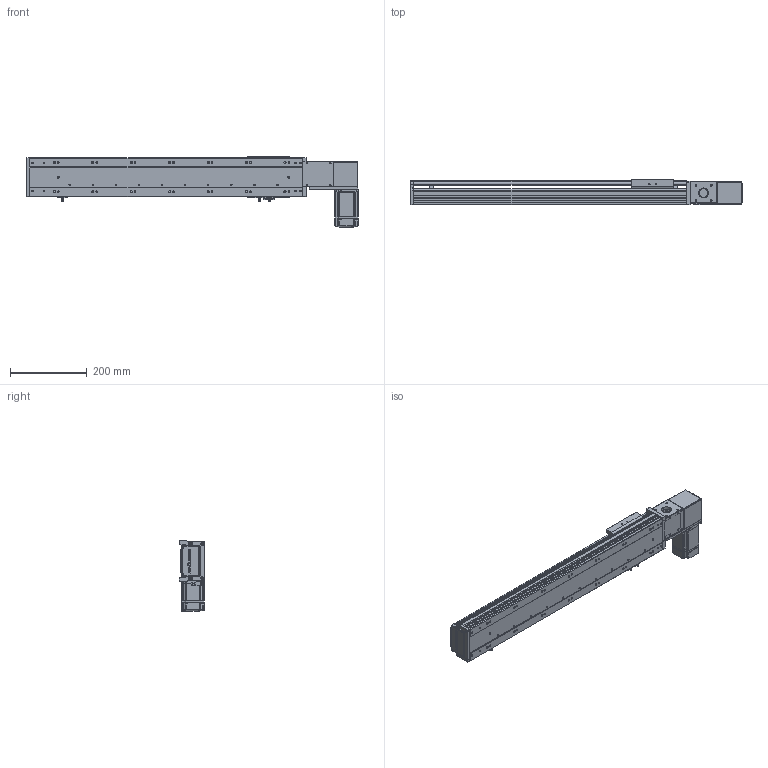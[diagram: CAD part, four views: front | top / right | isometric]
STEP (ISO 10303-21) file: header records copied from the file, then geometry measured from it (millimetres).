
FILE_DESCRIPTION (( 'STEP AP203' ), '1' );
FILE_NAME ('RY100-T-300-LK.SLDASM_500.step', '2024-04-25T05:36:50', ( '盈信电脑' ), ( '东莞市道滘镇水果街19号' ), 'SwSTEP 2.0', 'SolidWorks 2016', '' );
FILE_SCHEMA (( 'CONFIG_CONTROL_DESIGN' ));
Length unit declared in the file: millimetre
Products named in the file (13): RY100-T翋肮祭謫裔啣2; RY100-T左右折电机安装板; 滅袉蝶18-10; 1; RY100-T肮祭謫翋盓傅釱; RY100-T-300-RK倰第奻裔_500; RY80-T肮祭謫俋欶; RY100綴裔啣; RY100俋离覜茼え; RY100-T肮祭謫臏賑輸; RY100-T-300-RK倰第菁釱_500; RY100-T-300-LK.SLDASM_500; 覜茼ん672
Assembly tree (16 placements, depth 2):
  RY100-T-300-LK.SLDASM_500
    RY100-T-300-RK倰第菁釱_500
    RY100-T-300-RK倰第奻裔_500
    RY100-T肮祭謫臏賑輸
    RY100綴裔啣
    覜茼ん672  x3
    RY100俋离覜茼え
    RY100-T肮祭謫翋盓傅釱
    滅袉蝶18-10  x2
    RY100-T翋肮祭謫裔啣2  x2
    RY80-T肮祭謫俋欶
    RY100-T左右折电机安装板
    1
Bounding box: 864 x 66 x 182.5 mm (x, y, z)
Volume: 1812613.4 mm3; surface area: 717811 mm2
Topology: 16 solids, 16 shells, 2132 faces, 5943 edges, 3861 vertices
Faces by surface type: plane 1174, cylinder 749, cone 131, bspline 78
Entity records: 67889 total; most frequent: CARTESIAN_POINT 16561, ORIENTED_EDGE 10622, DIRECTION 10047, EDGE_CURVE 5311, VERTEX_POINT 3497, LINE 3467, VECTOR 3467, AXIS2_PLACEMENT_3D 3290
